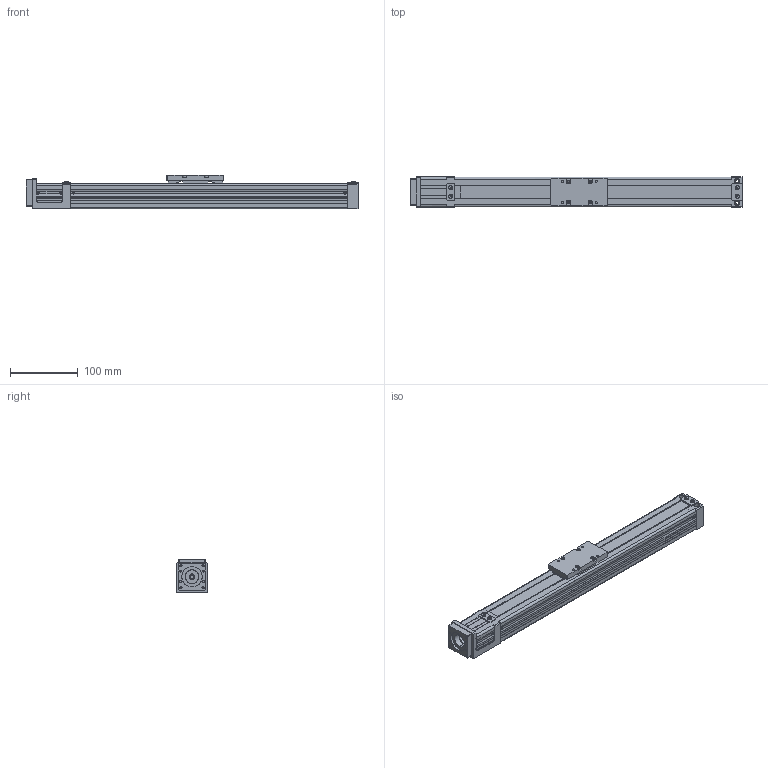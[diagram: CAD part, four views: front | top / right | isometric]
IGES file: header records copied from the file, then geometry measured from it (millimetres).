
Global section: file name: No Iges File Name specified; native system: AutoDesk Inventor R10; preprocessor: AutoDesk Inventor Iges Exporter R10; author: No Author specified; organization: No Organization specified; date: 20110617.143745; units: millimetre
Bounding box: 489 x 45 x 50 mm (x, y, z)
Surface area: 196371.5 mm2 (no closed solid volume)
Topology: 0 solids, 0 shells, 805 faces, 5334 edges, 5314 vertices
Faces by surface type: bspline 805
